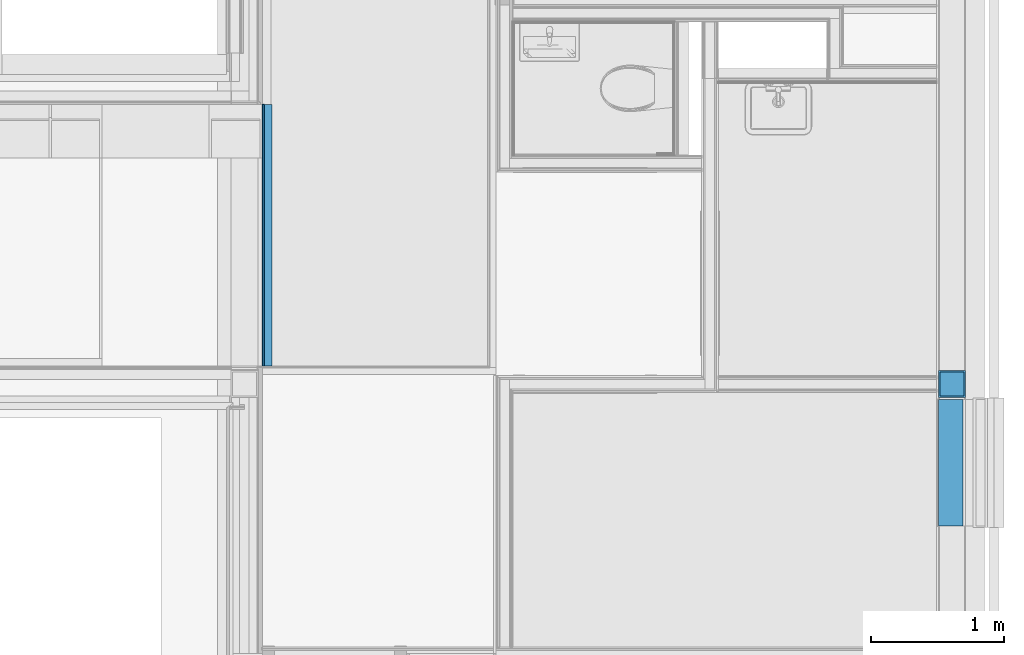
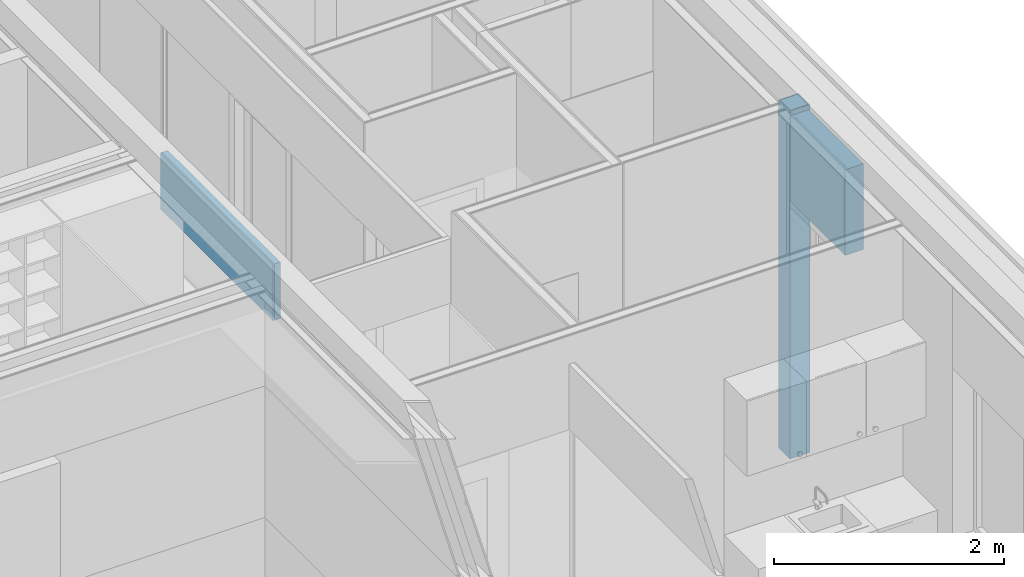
# One storey, part 72 of 137: 5 building element parts, 3 elements without a shape of their own.
"""IFC2X3 building model written with IfcOpenShell, lengths in millimetres."""

from ifc_helpers import new_model, entity, si_unit, converted_unit, derived_unit, money_unit, direction, frame, origin_with_axes, place, context, subcontext, project, spatial, faceted_brep, material, type_object, element, aggregate, save


model = new_model("IFC2X3")

# Units and contexts
model_context = context("Model", 3, precision=0.01, world=origin_with_axes(), true_north=direction((0.0, 1.0)))
body_context = subcontext(model_context, "Body", "Model", "MODEL_VIEW")
ifc_project = project(units=[si_unit("LENGTHUNIT", "METRE", prefix="MILLI"), si_unit("AREAUNIT", "SQUARE_METRE"), si_unit("VOLUMEUNIT", "CUBIC_METRE"), converted_unit("PLANEANGLEUNIT", "DEGREE", entity("IfcPlaneAngleMeasure", 0.0174532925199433), si_unit("PLANEANGLEUNIT", "RADIAN"), dimensions=[0, 0, 0, 0, 0, 0, 0]), money_unit("EUR"), converted_unit("TIMEUNIT", "Year", entity("IfcTimeMeasure", 31556926.0), si_unit("TIMEUNIT", "SECOND"), dimensions=[0, 0, 1, 0, 0, 0, 0]), si_unit("MASSUNIT", "GRAM", prefix="KILO"), si_unit("THERMODYNAMICTEMPERATUREUNIT", "DEGREE_CELSIUS"), si_unit("LUMINOUSINTENSITYUNIT", "LUMEN"), si_unit("ENERGYUNIT", "JOULE", prefix="MEGA"), derived_unit("THERMALCONDUCTANCEUNIT", [(si_unit("POWERUNIT", "WATT"), 1), (si_unit("LENGTHUNIT", "METRE"), -1), (si_unit("THERMODYNAMICTEMPERATUREUNIT", "KELVIN"), -1)]), derived_unit("SPECIFICHEATCAPACITYUNIT", [(si_unit("ENERGYUNIT", "JOULE"), 1), (si_unit("MASSUNIT", "GRAM", prefix="KILO"), -1), (si_unit("THERMODYNAMICTEMPERATUREUNIT", "KELVIN"), -1)]), derived_unit("MASSDENSITYUNIT", [(si_unit("MASSUNIT", "GRAM", prefix="KILO"), 1), (si_unit("VOLUMEUNIT", "CUBIC_METRE"), -1)])], contexts=[model_context])

# Site, building, storey
site_placement = place(None, origin_with_axes())
site = spatial("IfcSite", under=ifc_project, at=site_placement, Name="Site", CompositionType="ELEMENT")
building_placement = place(site_placement, origin_with_axes())
building = spatial("IfcBuilding", under=site, at=building_placement, Name="Naam gebouw", CompositionType="ELEMENT")
storey_placement = place(building_placement, frame((0.0, 0.0, 3960.0), z_axis=(0.0, 0.0, 1.0), x_axis=(1.0, 0.0, 0.0)))
storey = spatial("IfcBuildingStorey", under=building, at=storey_placement, Name="1e verdieping", CompositionType="ELEMENT", Elevation=3960.0)

# Column, building element parts
column_type = type_object("IfcColumnType", Name="200X200X10 200 x 200", PredefinedType="COLUMN")
column_placement = place(storey_placement, frame((29799.99999999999, 10810.00011055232, -100.0000000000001), z_axis=(0.0, 0.0, 1.0), x_axis=(1.0, 0.0, 0.0)))
column = element("IfcColumn", 1, at=column_placement, inside=storey, type_object=column_type, Name="28_Kolom-x", ObjectType="COLUMN")
ifc_material_1 = material(Name="Metaal - Staal C")
building_element_part_1_placement = place(column_placement, origin_with_axes())
building_element_part_1 = element("IfcBuildingElementPart", 2, at=building_element_part_1_placement, material=ifc_material_1, Name="Metaal - Staal C", context=body_context, shape_type="Brep", body=[
    faceted_brep([(-100.0000000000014, -99.99999999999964, 0.0), (100.0000000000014, -99.99999999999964, 0.0), (100.0000000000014, -99.99999999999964, 3699.999999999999), (-100.0000000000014, -99.99999999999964, 3699.999999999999), (-100.0000000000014, 99.99999999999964, 0.0), (100.0000000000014, 99.99999999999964, 0.0), (-89.99999999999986, -89.99999999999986, 0.0), (89.99999999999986, -89.99999999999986, 0.0), (89.99999999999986, 89.99999999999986, 0.0), (-89.99999999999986, 89.99999999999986, 0.0), (100.0000000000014, 99.99999999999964, 3699.999999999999), (-100.0000000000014, 99.99999999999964, 3699.999999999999), (-89.99999999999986, -89.99999999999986, 3699.999999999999), (-89.99999999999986, 89.99999999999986, 3699.999999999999), (89.99999999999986, 89.99999999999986, 3699.999999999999), (89.99999999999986, -89.99999999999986, 3699.999999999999)], [[[0, 1, 2, 3]], [[0, 4, 5, 1], [6, 7, 8, 9]], [[1, 5, 10, 2]], [[3, 2, 10, 11], [12, 13, 14, 15]], [[4, 0, 3, 11]], [[5, 4, 11, 10]], [[7, 6, 12, 15]], [[8, 7, 15, 14]], [[9, 8, 14, 13]], [[6, 9, 13, 12]]]),
])
ifc_material_2 = material(Name="Beton gewapend C")
building_element_part_2_placement = place(column_placement, origin_with_axes())
building_element_part_2 = element("IfcBuildingElementPart", 3, at=building_element_part_2_placement, material=ifc_material_2, Name="Beton gewapend C", context=body_context, shape_type="Brep", body=[
    faceted_brep([(-89.99999999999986, 89.99999999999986, 3685.000001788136), (89.99999999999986, 89.99999999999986, 3685.000001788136), (89.99999999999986, 89.99999999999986, 0.0), (-89.99999999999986, 89.99999999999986, 0.0), (89.99999999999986, -89.99999999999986, 3685.000001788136), (-89.99999999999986, -89.99999999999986, 3685.000001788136), (89.99999999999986, -89.99999999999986, 0.0), (-89.99999999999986, -89.99999999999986, 0.0)], [[[0, 1, 2, 3]], [[4, 1, 0, 5]], [[1, 4, 6, 2]], [[2, 6, 7, 3]], [[5, 0, 3, 7]], [[4, 5, 7, 6]]]),
    faceted_brep([(89.99999999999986, -89.99999999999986, 3695.000001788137), (89.99999999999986, 89.99999999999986, 3695.000001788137), (89.99999999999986, 89.99999999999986, 3699.999999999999), (89.99999999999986, -89.99999999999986, 3699.999999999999), (-89.99999999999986, 89.99999999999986, 3695.000001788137), (-89.99999999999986, -89.99999999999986, 3695.000001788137), (-89.99999999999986, 89.99999999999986, 3699.999999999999), (-89.99999999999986, -89.99999999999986, 3699.999999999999)], [[[0, 1, 2, 3]], [[4, 1, 0, 5]], [[1, 4, 6, 2]], [[2, 6, 7, 3]], [[5, 0, 3, 7]], [[4, 5, 7, 6]]]),
])
aggregate(column, [building_element_part_1, building_element_part_2])

# Proxy, building element parts
building_element_proxy_type = type_object("IfcBuildingElementProxyType", Name="22 Metal stud 72.5 plafond 73", PredefinedType="NOTDEFINED")
proxy_placement = place(storey_placement, frame((24634.99903999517, 12904.99781947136, 3000.0), z_axis=(0.0, 0.0, 1.0), x_axis=(0.0, -1.0, 0.0)))
proxy = element("IfcBuildingElementProxy", 4, at=proxy_placement, inside=storey, type_object=building_element_proxy_type, Name="_Wand-x")
ifc_material_3 = material(Name="ALG - LICHTE SCHEIDINGSWAND")
building_element_part_3_placement = place(proxy_placement, origin_with_axes())
building_element_part_3 = element("IfcBuildingElementPart", 5, at=building_element_part_3_placement, material=ifc_material_3, Name="ALG - LICHTE SCHEIDINGSWAND", context=body_context, shape_type="Brep", body=[
    faceted_brep([(1959.997708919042, 12.49999999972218, 299.9999999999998), (1959.997708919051, 72.49999999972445, 299.9999999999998), (1959.997708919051, 72.49999999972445, 600.0000000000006), (1959.997708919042, 12.49999999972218, 600.0000000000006), (1959.997708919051, 72.4999999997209, 0.0), (1959.997708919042, 12.49999999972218, 0.0), (0.0, 72.50000000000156, 0.0), (0.0, 72.50000000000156, 600.0000000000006), (0.0, 12.49999999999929, 600.0000000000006), (0.0, 12.49999999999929, 0.0)], [[[0, 1, 2, 3]], [[4, 1, 0, 5]], [[1, 4, 6, 7, 2]], [[8, 3, 2, 7]], [[5, 0, 3, 8, 9]], [[4, 5, 9, 6]], [[8, 7, 6, 9]]]),
])
ifc_material_4 = material(Name="Gipsplaat")
building_element_part_4_placement = place(proxy_placement, origin_with_axes())
building_element_part_4 = element("IfcBuildingElementPart", 6, at=building_element_part_4_placement, material=ifc_material_4, Name="Gipsplaat", context=body_context, shape_type="Brep", body=[
    faceted_brep([(1959.99770891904, -2.806643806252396e-10, 299.9999999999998), (1959.997708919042, 12.49999999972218, 299.9999999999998), (1959.997708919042, 12.49999999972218, 600.0000000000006), (1959.99770891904, -2.771116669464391e-10, 600.0000000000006), (1959.997708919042, 12.49999999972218, 0.0), (1959.99770891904, -2.806643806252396e-10, 0.0), (0.0, 12.49999999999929, 0.0), (0.0, 12.49999999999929, 600.0000000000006), (0.0, 0.0, 600.0000000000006), (0.0, 0.0, 0.0)], [[[0, 1, 2, 3]], [[4, 1, 0, 5]], [[1, 4, 6, 7, 2]], [[8, 3, 2, 7]], [[5, 0, 3, 8, 9]], [[4, 5, 9, 6]], [[8, 7, 6, 9]]]),
])
aggregate(proxy, [building_element_part_3, building_element_part_4])

# Beam, building element part
beam_type = type_object("IfcBeamType", Name="31 HSB boven kozijnen 214 x 1000", PredefinedType="BEAM")
beam_placement = place(storey_placement, frame((29685.99999999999, 10695.00011055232, 2600.000000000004), z_axis=(0.0, 0.0, 1.0), x_axis=(-1.0, 0.0, 0.0)))
beam = element("IfcBeam", 7, at=beam_placement, inside=storey, type_object=beam_type, Name="28_Balk-x", ObjectType="BEAM")
ifc_material_5 = material(Name="ALG - ISOLATIE")
building_element_part_5_placement = place(beam_placement, origin_with_axes())
building_element_part_5 = element("IfcBuildingElementPart", 8, at=building_element_part_5_placement, material=ifc_material_5, Name="ALG - ISOLATIE", context=body_context, shape_type="Brep", body=[
    faceted_brep([(-12.00000000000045, 950.000000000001, 49.99999999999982), (-12.00000000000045, 950.000000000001, 961.9999999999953), (-12.00000000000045, 0.0, 961.9999999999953), (-12.00000000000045, 0.0, 49.99999999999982), (-196.0000000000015, 950.000000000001, 49.99999999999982), (-196.0000000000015, 950.000000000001, 961.9999999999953), (-196.0000000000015, 0.0, 961.9999999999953), (-195.999999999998, 0.0, 49.99999999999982)], [[[0, 1, 2, 3]], [[0, 4, 5, 1]], [[1, 5, 6, 2]], [[3, 2, 6, 7]], [[4, 0, 3, 7]], [[5, 4, 7, 6]]]),
])
aggregate(beam, [building_element_part_5])

save(model, "model.ifc")
